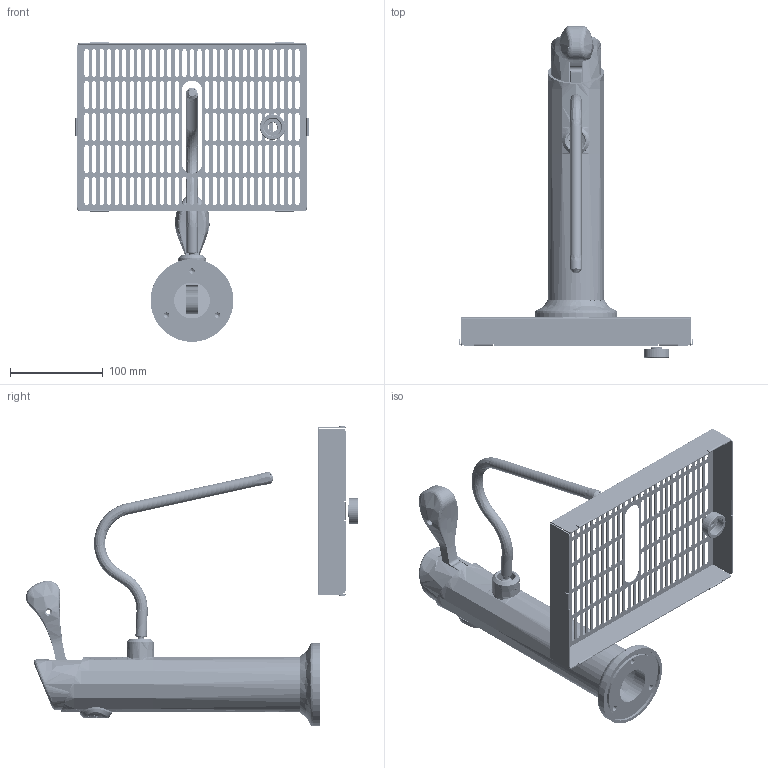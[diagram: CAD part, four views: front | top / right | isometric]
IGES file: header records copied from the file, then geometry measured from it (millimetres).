
Start section: SolidWorks IGES file using analytic representation for surfaces
Global section: file name: C:\PDM\PRODUCTION DWG\LM0015614\LM0015614_-_.IGS; native system: SolidWorks 2017; preprocessor: SolidWorks 2017; author: vincenzo; date: 181016.171707; units: millimetre
Bounding box: 251 x 357.04 x 322.25 mm (x, y, z)
Surface area: 309823 mm2 (no closed solid volume)
Topology: 0 solids, 0 shells, 1917 faces, 23066 edges, 23043 vertices
Faces by surface type: bspline 1011, revolution 906
